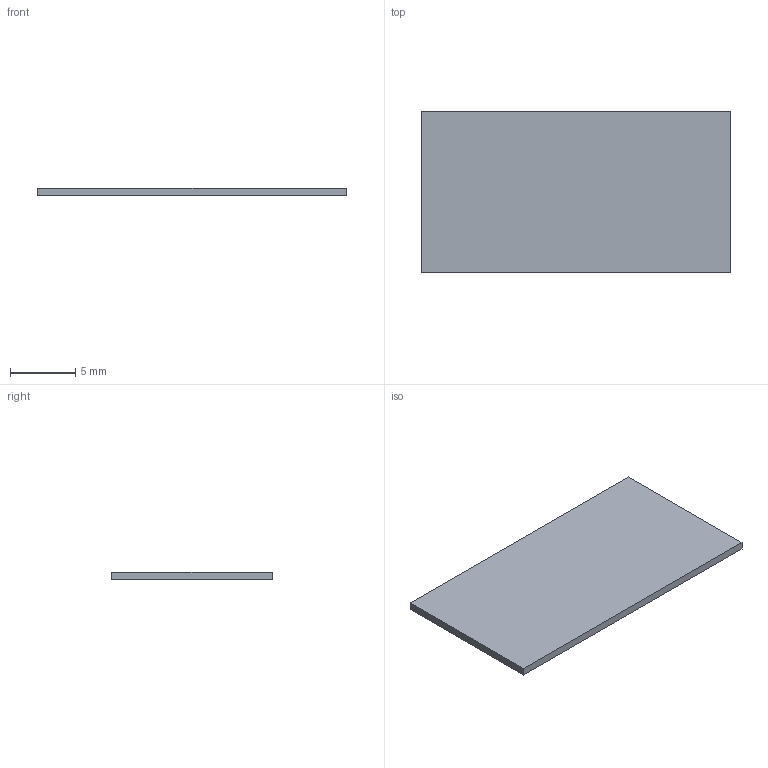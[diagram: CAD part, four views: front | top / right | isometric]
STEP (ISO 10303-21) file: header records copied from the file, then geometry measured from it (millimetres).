
FILE_DESCRIPTION(('Open CASCADE Model'),'2;1');
FILE_NAME('Open CASCADE Shape Model','2026-10-21T18:52:54',('Author'),( 'Open CASCADE'),'Open CASCADE STEP processor 8.0','build123d', 'Unknown');
FILE_SCHEMA(('AUTOMOTIVE_DESIGN { 1 0 10303 214 1 1 1 1 }'));
Length unit declared in the file: millimetre
Products named in the file (2): =>[0:1:1:2]; COMPOUND
Assembly tree (1 placements, depth 2):
  =>[0:1:1:2]
    COMPOUND
Bounding box: 23.6 x 12.3 x 0.6 mm (x, y, z)
Volume: 174.2 mm3; surface area: 623.6 mm2
Topology: 1 solids, 1 shells, 6 faces, 12 edges, 8 vertices
Faces by surface type: plane 6
Entity records: 340 total; most frequent: CARTESIAN_POINT 52, DIRECTION 52, LINE 36, VECTOR 36, ORIENTED_EDGE 24, PCURVE 24, DEFINITIONAL_REPRESENTATION 24, EDGE_CURVE 12
